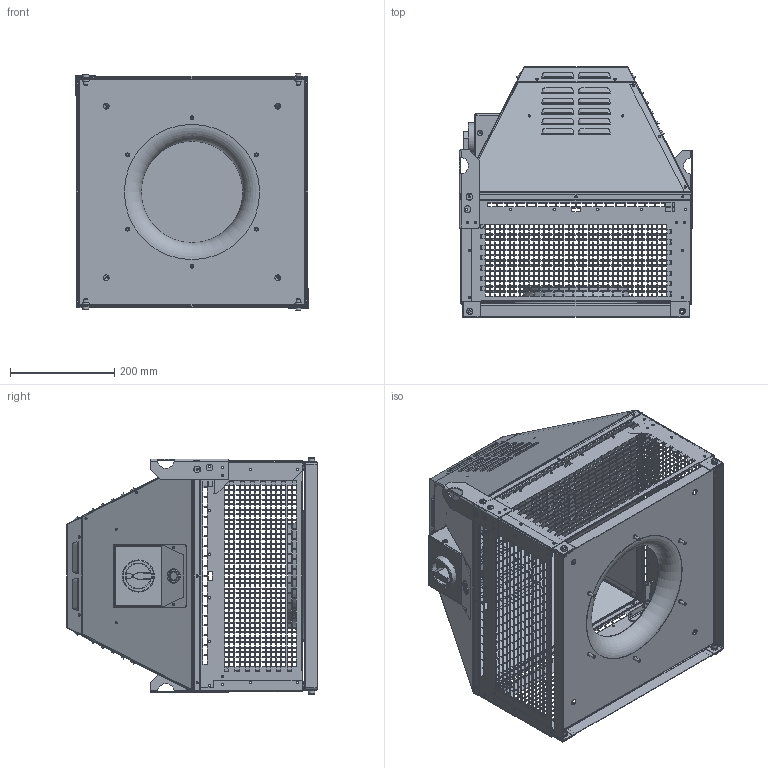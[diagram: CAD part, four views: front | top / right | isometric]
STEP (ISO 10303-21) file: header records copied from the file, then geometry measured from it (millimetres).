
FILE_DESCRIPTION (( 'STEP AP203' ), '1' );
FILE_NAME ('150555-00_DHN315D2F430_step.step', '2019-05-10T11:04:12', ( '' ), ( '' ), 'SwSTEP 2.0', 'SolidWorks 2017', '' );
FILE_SCHEMA (( 'CONFIG_CONTROL_DESIGN' ));
Products named in the file (1): 150555-00_DHN315D2F430_step
Bounding box: 449.3 x 481.47 x 456.3 mm (x, y, z)
Surface area: 2043748.3 mm2 (no closed solid volume)
Topology: 0 solids, 57 shells, 4069 faces, 17208 edges, 11468 vertices
Faces by surface type: plane 3440, cylinder 381, bspline 214, torus 22, cone 10, sphere 2
Full cylindrical faces by diameter (mm): 3.2 x12, 4.2 x90, 4.5 x74, 5.4 x3, 6 x10, 7.4 x6, 8 x1, 9 x4, 10 x2, 11 x4, 12 x4, 13 x8, 16 x2, 20 x2, 26 x1, 27.5 x1, 61 x1, 80 x1, 195 x1
Entity records: 207234 total; most frequent: CARTESIAN_POINT 68628, ORIENTED_EDGE 26269, DIRECTION 24581, EDGE_CURVE 16870, VECTOR 15231, LINE 15231, VERTEX_POINT 11466, EDGE_LOOP 7185
